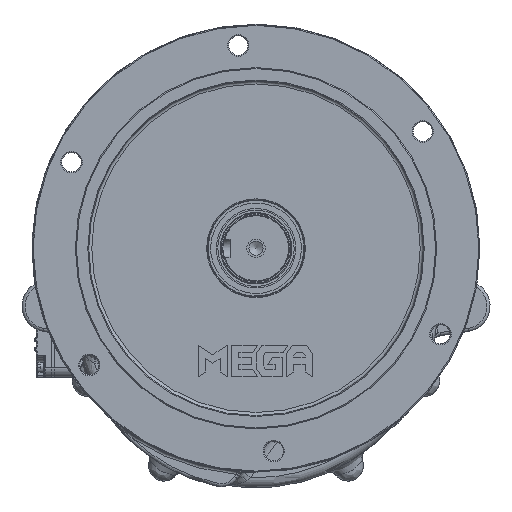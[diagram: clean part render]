
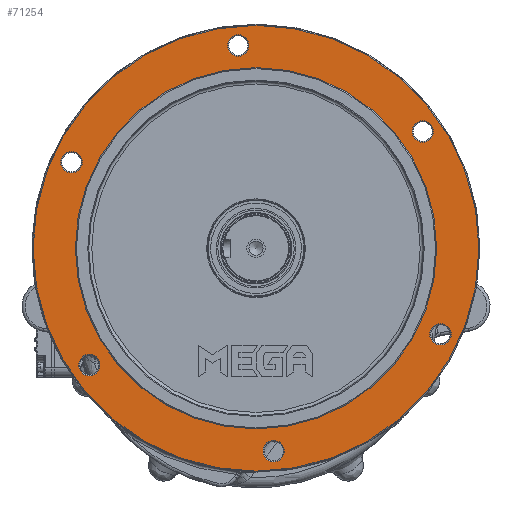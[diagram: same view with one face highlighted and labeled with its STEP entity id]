
A CAD part, front view. The second image highlights one B-rep face of the part: STEP entity #71254.
In plain terms, the highlighted planar face has unit normal (0, -1, 0).
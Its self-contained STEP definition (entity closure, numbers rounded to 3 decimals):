
#4815=FACE_BOUND('',#12309,.T.);
#4816=FACE_BOUND('',#12310,.T.);
#4817=FACE_BOUND('',#12311,.T.);
#4818=FACE_BOUND('',#12312,.T.);
#4819=FACE_BOUND('',#12313,.T.);
#4820=FACE_BOUND('',#12314,.T.);
#4821=FACE_BOUND('',#12315,.T.);
#5445=PLANE('',#76538);
#7978=FACE_OUTER_BOUND('',#12308,.T.);
#12308=EDGE_LOOP('',(#50528));
#12309=EDGE_LOOP('',(#50529));
#12310=EDGE_LOOP('',(#50530));
#12311=EDGE_LOOP('',(#50531));
#12312=EDGE_LOOP('',(#50532));
#12313=EDGE_LOOP('',(#50533));
#12314=EDGE_LOOP('',(#50534));
#12315=EDGE_LOOP('',(#50535));
#25086=CIRCLE('',#76359,219.);
#25089=CIRCLE('',#76364,177.5);
#25164=CIRCLE('',#76504,10.5);
#25175=CIRCLE('',#76519,10.5);
#25178=CIRCLE('',#76524,10.5);
#25181=CIRCLE('',#76529,10.5);
#25184=CIRCLE('',#76534,10.5);
#25187=CIRCLE('',#76539,10.5);
#29157=VERTEX_POINT('',#122403);
#29160=VERTEX_POINT('',#122412);
#29298=VERTEX_POINT('',#124262);
#29306=VERTEX_POINT('',#124287);
#29309=VERTEX_POINT('',#124297);
#29312=VERTEX_POINT('',#124307);
#29315=VERTEX_POINT('',#124317);
#29318=VERTEX_POINT('',#124327);
#36790=EDGE_CURVE('',#29157,#29157,#25086,.T.);
#36794=EDGE_CURVE('',#29160,#29160,#25089,.T.);
#37037=EDGE_CURVE('',#29298,#29298,#25164,.T.);
#37050=EDGE_CURVE('',#29306,#29306,#25175,.T.);
#37055=EDGE_CURVE('',#29309,#29309,#25178,.T.);
#37060=EDGE_CURVE('',#29312,#29312,#25181,.T.);
#37065=EDGE_CURVE('',#29315,#29315,#25184,.T.);
#37070=EDGE_CURVE('',#29318,#29318,#25187,.T.);
#50528=ORIENTED_EDGE('',*,*,#36790,.F.);
#50529=ORIENTED_EDGE('',*,*,#37065,.F.);
#50530=ORIENTED_EDGE('',*,*,#37055,.F.);
#50531=ORIENTED_EDGE('',*,*,#37037,.F.);
#50532=ORIENTED_EDGE('',*,*,#36794,.F.);
#50533=ORIENTED_EDGE('',*,*,#37050,.F.);
#50534=ORIENTED_EDGE('',*,*,#37060,.F.);
#50535=ORIENTED_EDGE('',*,*,#37070,.F.);
#71254=ADVANCED_FACE('',(#7978,#4815,#4816,#4817,#4818,#4819,#4820,#4821),
#5445,.T.);
#76359=AXIS2_PLACEMENT_3D('',#122405,#85860,#85861);
#76364=AXIS2_PLACEMENT_3D('',#122414,#85871,#85872);
#76504=AXIS2_PLACEMENT_3D('',#124263,#86242,#86243);
#76519=AXIS2_PLACEMENT_3D('',#124288,#86274,#86275);
#76524=AXIS2_PLACEMENT_3D('',#124298,#86286,#86287);
#76529=AXIS2_PLACEMENT_3D('',#124308,#86298,#86299);
#76534=AXIS2_PLACEMENT_3D('',#124318,#86310,#86311);
#76538=AXIS2_PLACEMENT_3D('',#124326,#86320,#86321);
#76539=AXIS2_PLACEMENT_3D('',#124328,#86322,#86323);
#85860=DIRECTION('center_axis',(0.,1.,0.));
#85861=DIRECTION('ref_axis',(-1.,0.,0.));
#85871=DIRECTION('center_axis',(0.,-1.,0.));
#85872=DIRECTION('ref_axis',(-1.,0.,0.));
#86242=DIRECTION('center_axis',(0.,-1.,0.));
#86243=DIRECTION('ref_axis',(-1.,0.,0.));
#86274=DIRECTION('center_axis',(0.,-1.,0.));
#86275=DIRECTION('ref_axis',(-0.5,0.,0.866));
#86286=DIRECTION('center_axis',(0.,-1.,0.));
#86287=DIRECTION('ref_axis',(0.5,0.,0.866));
#86298=DIRECTION('center_axis',(0.,-1.,0.));
#86299=DIRECTION('ref_axis',(1.,0.,0.));
#86310=DIRECTION('center_axis',(0.,-1.,0.));
#86311=DIRECTION('ref_axis',(0.5,0.,-0.866));
#86320=DIRECTION('center_axis',(0.,-1.,0.));
#86321=DIRECTION('ref_axis',(0.,0.,-1.));
#86322=DIRECTION('center_axis',(0.,-1.,0.));
#86323=DIRECTION('ref_axis',(-0.5,0.,-0.866));
#122403=CARTESIAN_POINT('',(219.228,-228.728,55.25));
#122405=CARTESIAN_POINT('Origin',(0.228,-228.728,55.25));
#122412=CARTESIAN_POINT('',(177.728,-228.728,55.25));
#122414=CARTESIAN_POINT('Origin',(0.228,-228.728,55.25));
#124262=CARTESIAN_POINT('',(-6.703,-228.728,254.489));
#124263=CARTESIAN_POINT('Origin',(-17.203,-228.728,254.489));
#124287=CARTESIAN_POINT('',(169.309,-228.728,160.872));
#124288=CARTESIAN_POINT('Origin',(164.059,-228.728,169.965));
#124297=CARTESIAN_POINT('',(176.24,-228.728,-38.367));
#124298=CARTESIAN_POINT('Origin',(181.49,-228.728,-29.274));
#124307=CARTESIAN_POINT('',(7.16,-228.728,-143.989));
#124308=CARTESIAN_POINT('Origin',(17.66,-228.728,-143.989));
#124317=CARTESIAN_POINT('',(-168.852,-228.728,-50.372));
#124318=CARTESIAN_POINT('Origin',(-163.602,-228.728,-59.465));
#124326=CARTESIAN_POINT('Origin',(0.228,-228.728,55.25));
#124327=CARTESIAN_POINT('',(-175.783,-228.728,148.867));
#124328=CARTESIAN_POINT('Origin',(-181.033,-228.728,139.774));
